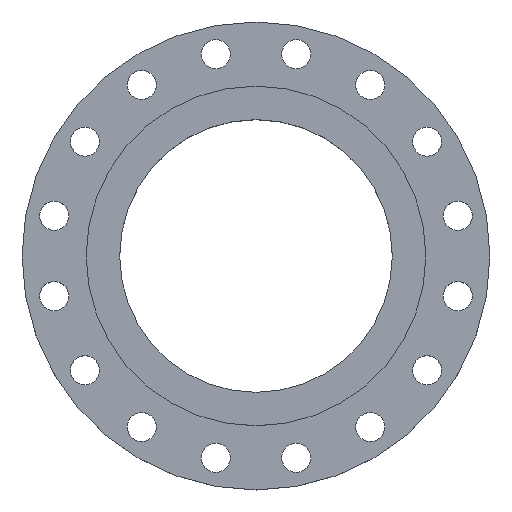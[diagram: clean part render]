
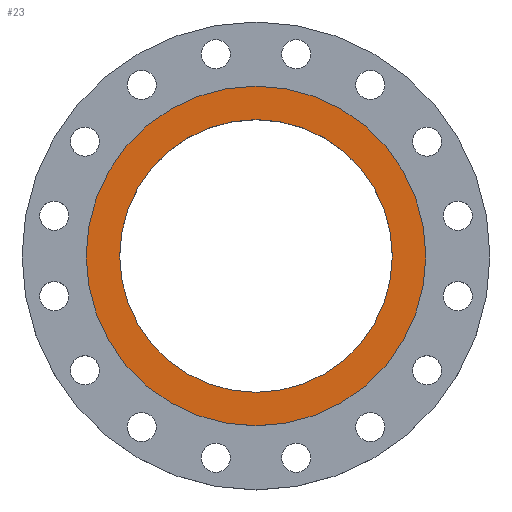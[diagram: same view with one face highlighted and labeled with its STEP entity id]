
A CAD part, top view. The second image highlights one B-rep face of the part: STEP entity #23.
In plain terms, the highlighted planar face has unit normal (0, 0, 1).
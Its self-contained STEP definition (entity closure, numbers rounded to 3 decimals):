
#23 = ADVANCED_FACE ( 'NONE', ( #1291, #1290 ), #1289, .T. ) ;
#26 = EDGE_CURVE ( 'NONE', #1363, #545, #168, .T. ) ;
#149 = CIRCLE ( 'NONE', #162, 169. ) ;
#162 = AXIS2_PLACEMENT_3D ( 'NONE', #574, #573, #571 ) ;
#168 = CIRCLE ( 'NONE', #427, 210.5 ) ;
#253 = AXIS2_PLACEMENT_3D ( 'NONE', #506, #501, #499 ) ;
#308 = VERTEX_POINT ( 'NONE', #1065 ) ;
#355 = VERTEX_POINT ( 'NONE', #1038 ) ;
#408 = AXIS2_PLACEMENT_3D ( 'NONE', #1288, #1287, #1286 ) ;
#427 = AXIS2_PLACEMENT_3D ( 'NONE', #1276, #1275, #1274 ) ;
#444 = CARTESIAN_POINT ( 'NONE',  ( -210.5, 0., 0. ) ) ;
#447 = ORIENTED_EDGE ( 'NONE', *, *, #26, .F. ) ;
#456 = ORIENTED_EDGE ( 'NONE', *, *, #1327, .T. ) ;
#464 = ORIENTED_EDGE ( 'NONE', *, *, #1202, .T. ) ;
#487 = EDGE_CURVE ( 'NONE', #545, #1363, #761, .T. ) ;
#499 = DIRECTION ( 'NONE',  ( -1., 0., 0. ) ) ;
#501 = DIRECTION ( 'NONE',  ( 0., 0., -1. ) ) ;
#505 = ORIENTED_EDGE ( 'NONE', *, *, #487, .F. ) ;
#506 = CARTESIAN_POINT ( 'NONE',  ( 0., 0., 0. ) ) ;
#545 = VERTEX_POINT ( 'NONE', #966 ) ;
#571 = DIRECTION ( 'NONE',  ( -1., 0., 0. ) ) ;
#573 = DIRECTION ( 'NONE',  ( 0., 0., -1. ) ) ;
#574 = CARTESIAN_POINT ( 'NONE',  ( 0., 0., 0. ) ) ;
#761 = CIRCLE ( 'NONE', #774, 210.5 ) ;
#774 = AXIS2_PLACEMENT_3D ( 'NONE', #994, #991, #988 ) ;
#966 = CARTESIAN_POINT ( 'NONE',  ( 210.5, 0., 0. ) ) ;
#988 = DIRECTION ( 'NONE',  ( -1., 0., 0. ) ) ;
#991 = DIRECTION ( 'NONE',  ( 0., 0., -1. ) ) ;
#994 = CARTESIAN_POINT ( 'NONE',  ( 0., 0., 0. ) ) ;
#1038 = CARTESIAN_POINT ( 'NONE',  ( -169., 0., 0. ) ) ;
#1065 = CARTESIAN_POINT ( 'NONE',  ( 169., 0., 0. ) ) ;
#1163 = CIRCLE ( 'NONE', #253, 169. ) ;
#1202 = EDGE_CURVE ( 'NONE', #355, #308, #149, .T. ) ;
#1274 = DIRECTION ( 'NONE',  ( -1., 0., 0. ) ) ;
#1275 = DIRECTION ( 'NONE',  ( 0., 0., -1. ) ) ;
#1276 = CARTESIAN_POINT ( 'NONE',  ( 0., 0., 0. ) ) ;
#1286 = DIRECTION ( 'NONE',  ( 1., 0., 0. ) ) ;
#1287 = DIRECTION ( 'NONE',  ( 0., 0., 1. ) ) ;
#1288 = CARTESIAN_POINT ( 'NONE',  ( 0., 0., 0. ) ) ;
#1289 = PLANE ( 'NONE',  #408 ) ;
#1290 = FACE_OUTER_BOUND ( 'NONE', #1429, .T. ) ;
#1291 = FACE_BOUND ( 'NONE', #1407, .T. ) ;
#1327 = EDGE_CURVE ( 'NONE', #308, #355, #1163, .T. ) ;
#1363 = VERTEX_POINT ( 'NONE', #444 ) ;
#1407 = EDGE_LOOP ( 'NONE', ( #464, #456 ) ) ;
#1429 = EDGE_LOOP ( 'NONE', ( #447, #505 ) ) ;
